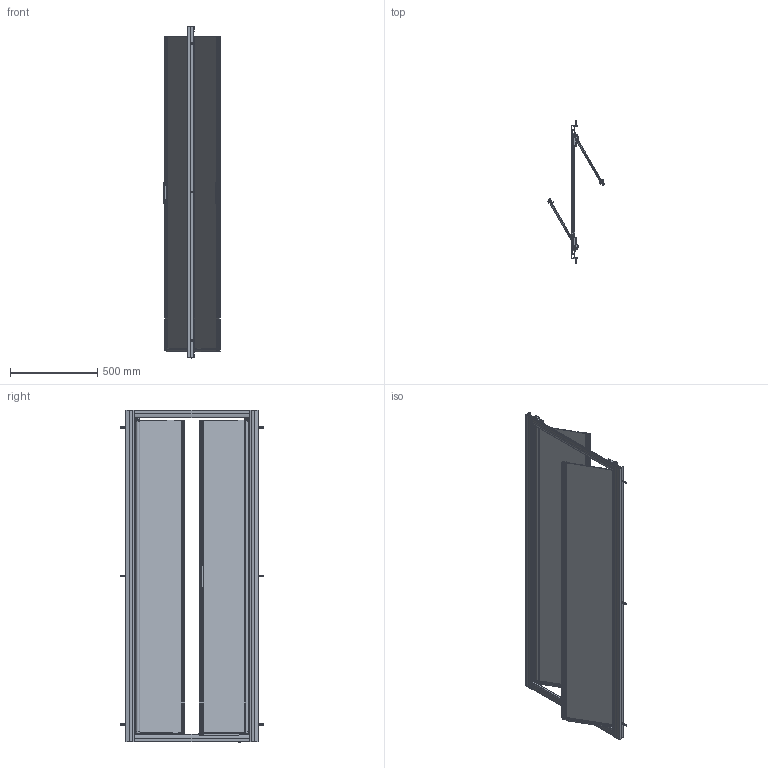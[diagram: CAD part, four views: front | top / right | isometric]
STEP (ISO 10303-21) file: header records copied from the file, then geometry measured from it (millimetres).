
FILE_DESCRIPTION(/* description */ ('VERTICALE SNODO'),/* implementation_level */ '2;1');
FILE_NAME(/* name */ 'C:\Users\benassi\Desktop\dwg 3D\America quattro 2019\America 4 saloon 76-84.stp',/* time_stamp */ '2018-07-17T16:27:05+02:00',/* author */ ('benassi'),/* organization */ (''),/* preprocessor_version */ 'ST-DEVELOPER v16.1',/* originating_system */ 'Autodesk Inventor 2016',/* authorisation */ '');
FILE_SCHEMA (('AUTOMOTIVE_DESIGN { 1 0 10303 214 3 1 1 }'));
Length unit declared in the file: millimetre
Products named in the file (31): 10000021283; 10000021282; ISO 7050 - ST 3,5 x 13 - C - Z; 10000021548; 10000021289; 10000021395; 10000011474; 10000021298; 10000013432; 10000013433; 10000013434; 10000021394; ISO 7049 - ST 3,5 x 16 - C - Z; 10000021285; 10000021336; 10000016783; 10000019036; 10000019034; ISO 7049 - ST 3,5 x 9,5 - F - H; 10000020335; 10000020374; 10000020373; 10000020375; ISO 7050 - ST 3,5 x 13 - C - H; 10000021547; 10000016783_1; 10000011474_1; 10000020335_1; 10000019154; 158038; 10000021546
Assembly tree (84 placements, depth 3):
  10000021546
    10000021283  x2
    10000021282  x4
    ISO 7050 - ST 3,5 x 13 - C - Z  x4
    10000021548  x2
    10000021289  x2
    10000021395  x2
    10000011474
    10000021298  x2
    10000013434  x4
      10000013432
      10000013433
    10000021394  x2
    ISO 7049 - ST 3,5 x 16 - C - Z  x8
    10000021285  x8
    10000021336  x2
    10000016783
    10000019036  x2
    10000019034  x2
    ISO 7049 - ST 3,5 x 9,5 - F - H  x4
    10000020335
    10000020375  x2
      10000020374
      10000020373
    ISO 7050 - ST 3,5 x 13 - C - H  x2
    10000021547  x2
    10000016783_1
    10000011474_1
    10000020335_1
    10000019154  x6
    10000013433  x6
    158038  x6
Bounding box: 325.36 x 821 x 1900.2 mm (x, y, z)
Volume: 6794144.9 mm3; surface area: 6385325.5 mm2
Topology: 86 solids, 90 shells, 4314 faces, 11214 edges, 7284 vertices
Faces by surface type: plane 2322, cylinder 898, cone 572, bspline 296, torus 158, sphere 68
Full cylindrical faces by diameter (mm): 3 x12, 3.5 x26, 3.6 x4, 3.7 x8, 3.9 x4, 4 x26, 4.2 x6, 5 x10, 6.2 x6, 6.3 x10, 7.3 x16, 7.6 x20, 8.2 x6, 9 x10, 10 x8, 11.5 x4, 19 x8
Entity records: 52576 total; most frequent: CARTESIAN_POINT 12421, ORIENTED_EDGE 8214, DIRECTION 7970, EDGE_CURVE 4107, AXIS2_PLACEMENT_3D 2795, VERTEX_POINT 2736, LINE 2380, VECTOR 2380
